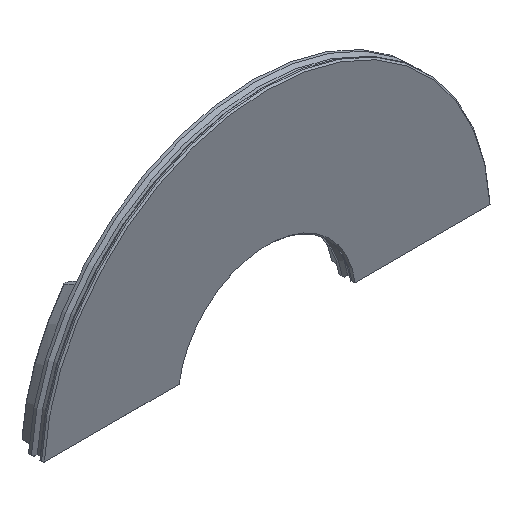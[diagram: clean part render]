
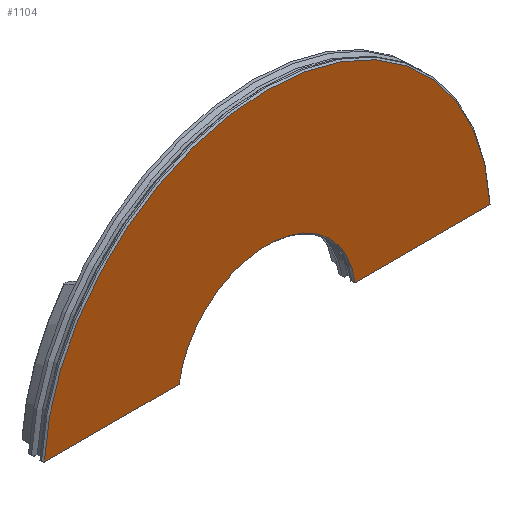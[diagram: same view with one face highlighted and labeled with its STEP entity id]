
A CAD part, isometric view. The second image highlights one B-rep face of the part: STEP entity #1104.
In plain terms, the highlighted planar face has unit normal (0, -1, 0).
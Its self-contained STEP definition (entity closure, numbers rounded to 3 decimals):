
#63=CIRCLE('',#1209,77.25);
#64=CIRCLE('',#1211,30.75);
#134=FACE_OUTER_BOUND('',#200,.T.);
#200=EDGE_LOOP('',(#947,#948,#949,#950));
#287=LINE('',#1739,#377);
#310=LINE('',#1825,#400);
#377=VECTOR('',#1382,10.);
#400=VECTOR('',#1427,10.);
#479=VERTEX_POINT('',#1733);
#480=VERTEX_POINT('',#1738);
#508=VERTEX_POINT('',#1819);
#509=VERTEX_POINT('',#1824);
#607=EDGE_CURVE('',#479,#480,#287,.T.);
#642=EDGE_CURVE('',#508,#509,#310,.T.);
#673=EDGE_CURVE('',#509,#479,#63,.T.);
#674=EDGE_CURVE('',#480,#508,#64,.T.);
#947=ORIENTED_EDGE('',*,*,#642,.F.);
#948=ORIENTED_EDGE('',*,*,#674,.F.);
#949=ORIENTED_EDGE('',*,*,#607,.F.);
#950=ORIENTED_EDGE('',*,*,#673,.F.);
#1049=PLANE('',#1215);
#1104=ADVANCED_FACE('',(#134),#1049,.T.);
#1209=AXIS2_PLACEMENT_3D('',#1910,#1473,#1474);
#1211=AXIS2_PLACEMENT_3D('',#1912,#1477,#1478);
#1215=AXIS2_PLACEMENT_3D('',#1916,#1485,#1486);
#1382=DIRECTION('',(-1.,0.,0.));
#1427=DIRECTION('',(-1.,0.,0.));
#1473=DIRECTION('center_axis',(0.,1.,0.));
#1474=DIRECTION('ref_axis',(1.,0.,0.));
#1477=DIRECTION('center_axis',(0.,-1.,0.));
#1478=DIRECTION('ref_axis',(1.,0.,0.));
#1485=DIRECTION('center_axis',(0.,-1.,0.));
#1486=DIRECTION('ref_axis',(1.,0.,0.));
#1733=CARTESIAN_POINT('',(77.133,-2.5,4.25));
#1738=CARTESIAN_POINT('',(30.455,-2.5,4.25));
#1739=CARTESIAN_POINT('',(15.008,-2.5,4.25));
#1819=CARTESIAN_POINT('',(-30.455,-2.5,4.25));
#1824=CARTESIAN_POINT('',(-77.133,-2.5,4.25));
#1825=CARTESIAN_POINT('',(-38.83,-2.5,4.25));
#1910=CARTESIAN_POINT('Origin',(0.,-2.5,0.));
#1912=CARTESIAN_POINT('Origin',(0.,-2.5,0.));
#1916=CARTESIAN_POINT('Origin',(0.,-2.5,40.75));
